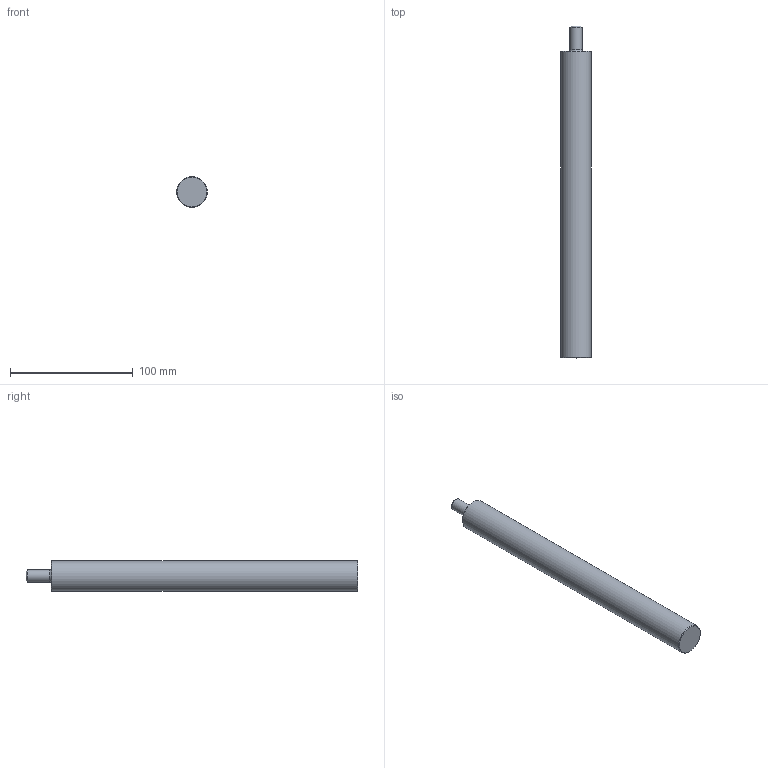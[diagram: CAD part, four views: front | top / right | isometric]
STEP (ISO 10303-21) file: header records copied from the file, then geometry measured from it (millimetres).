
FILE_DESCRIPTION(/* description */ (''),/* implementation_level */ '2;1');
FILE_NAME(/* name */ 'BM01-25D-250L.step',/* time_stamp */ '2023-10-24T13:48:59+09:00',/* author */ (''),/* organization */ (''),/* preprocessor_version */ 'ST-DEVELOPER v20',/* originating_system */ 'Autodesk Translation Framework v12.14.0.127',/* authorisation */ '');
FILE_SCHEMA (('AUTOMOTIVE_DESIGN { 1 0 10303 214 3 1 1 }'));
Length unit declared in the file: millimetre
Products named in the file (1): BM01-25D-250L
Bounding box: 25 x 270.5 x 25 mm (x, y, z)
Volume: 124253.7 mm3; surface area: 21172.1 mm2
Topology: 1 solids, 1 shells, 9 faces, 15 edges, 9 vertices
Faces by surface type: cone 3, plane 3, cylinder 2, torus 1
Full cylindrical faces by diameter (mm): 9.85 x1, 25 x1
Entity records: 255 total; most frequent: DIRECTION 45, CARTESIAN_POINT 34, ORIENTED_EDGE 30, AXIS2_PLACEMENT_3D 20, EDGE_CURVE 15, EDGE_LOOP 10, CIRCLE 10, FACE_OUTER_BOUND 9
